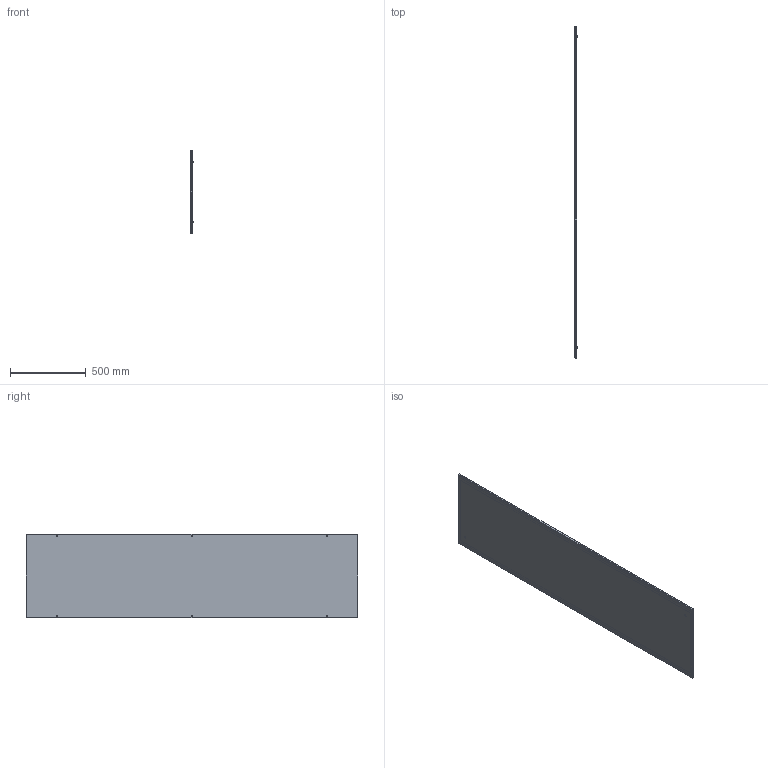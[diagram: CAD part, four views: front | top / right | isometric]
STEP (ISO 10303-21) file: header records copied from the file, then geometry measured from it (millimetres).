
FILE_DESCRIPTION(('STEP AP203'), '1');
FILE_NAME('Ïàíåëü áîêîâàÿ 2200õ600 ìì IP55 OptiBox M (2 øò) 419664 ÊÝÀÇ', '', ('UNSPECIFIED'), ('UNSPECIFIED'), 'C3D Converter', 'C3D Toolkit', '');
FILE_SCHEMA(('CONFIG_CONTROL_DESIGN'));
Length unit declared in the file: millimetre
Bounding box: 18.9 x 2186 x 553 mm (x, y, z)
Volume: 2273865.7 mm3; surface area: 2767786.2 mm2
Topology: 4 solids, 4 shells, 135 faces, 278 edges, 164 vertices
Faces by surface type: plane 77, cylinder 50, bspline 8
Full cylindrical faces by diameter (mm): 0.75 x2, 1 x2, 6.3 x6, 8 x2, 9.3 x2, 13 x2, 13.5 x6
Entity records: 5656 total; most frequent: CARTESIAN_POINT 1932, DIRECTION 544, ORIENTED_EDGE 512, EDGE_CURVE 256, AXIS2_PLACEMENT_3D 196, EDGE_LOOP 184, VERTEX_POINT 164, LINE 152
